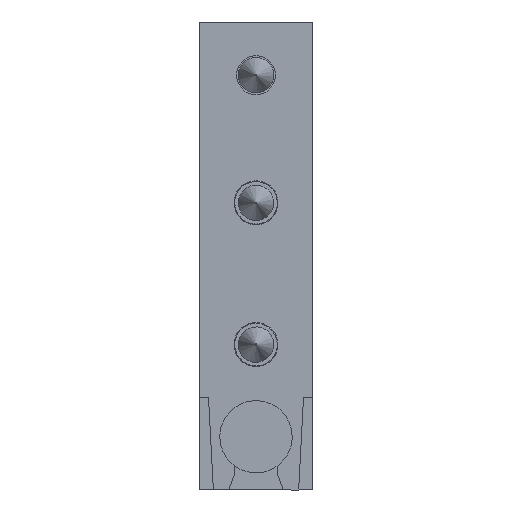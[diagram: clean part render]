
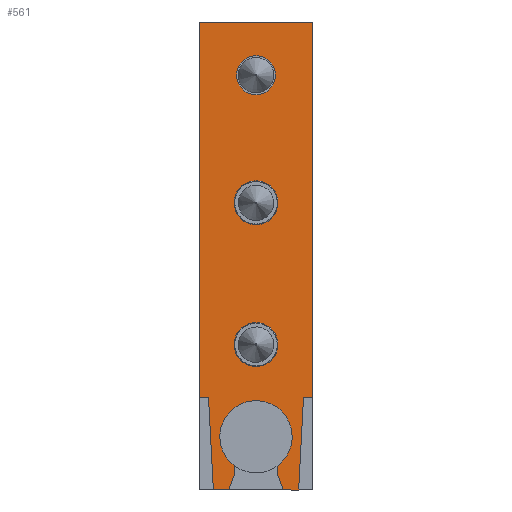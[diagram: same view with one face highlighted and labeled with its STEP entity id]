
A CAD part, left-side view. The second image highlights one B-rep face of the part: STEP entity #561.
In plain terms, the highlighted planar face has unit normal (-1, 0, 0) as drawn and (1, 0, 0) by its records, which use the part's own axes.
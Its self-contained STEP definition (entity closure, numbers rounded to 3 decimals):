
#72=CIRCLE('',#637,3.1);
#73=CIRCLE('',#638,3.1);
#74=CIRCLE('',#639,2.75);
#75=CIRCLE('',#640,3.1);
#104=ORIENTED_EDGE('',*,*,#232,.F.);
#105=ORIENTED_EDGE('',*,*,#233,.F.);
#106=ORIENTED_EDGE('',*,*,#234,.F.);
#107=ORIENTED_EDGE('',*,*,#230,.F.);
#108=ORIENTED_EDGE('',*,*,#235,.T.);
#109=ORIENTED_EDGE('',*,*,#236,.T.);
#110=ORIENTED_EDGE('',*,*,#224,.F.);
#111=ORIENTED_EDGE('',*,*,#237,.F.);
#112=ORIENTED_EDGE('',*,*,#238,.F.);
#113=ORIENTED_EDGE('',*,*,#239,.F.);
#114=ORIENTED_EDGE('',*,*,#240,.F.);
#115=ORIENTED_EDGE('',*,*,#241,.F.);
#116=ORIENTED_EDGE('',*,*,#242,.F.);
#117=ORIENTED_EDGE('',*,*,#243,.F.);
#118=ORIENTED_EDGE('',*,*,#244,.F.);
#119=ORIENTED_EDGE('',*,*,#245,.F.);
#120=ORIENTED_EDGE('',*,*,#246,.F.);
#224=EDGE_CURVE('',#288,#289,#338,.T.);
#230=EDGE_CURVE('',#294,#295,#344,.T.);
#232=EDGE_CURVE('',#296,#296,#72,.T.);
#233=EDGE_CURVE('',#297,#297,#73,.T.);
#234=EDGE_CURVE('',#298,#298,#74,.T.);
#235=EDGE_CURVE('',#294,#299,#346,.T.);
#236=EDGE_CURVE('',#299,#289,#347,.T.);
#237=EDGE_CURVE('',#300,#288,#348,.T.);
#238=EDGE_CURVE('',#301,#300,#349,.T.);
#239=EDGE_CURVE('',#302,#301,#75,.T.);
#240=EDGE_CURVE('',#303,#302,#350,.T.);
#241=EDGE_CURVE('',#304,#303,#351,.T.);
#242=EDGE_CURVE('',#305,#304,#352,.T.);
#243=EDGE_CURVE('',#306,#305,#353,.T.);
#244=EDGE_CURVE('',#307,#306,#354,.T.);
#245=EDGE_CURVE('',#308,#307,#355,.T.);
#246=EDGE_CURVE('',#295,#308,#356,.T.);
#288=VERTEX_POINT('',#886);
#289=VERTEX_POINT('',#887);
#294=VERTEX_POINT('',#898);
#295=VERTEX_POINT('',#900);
#296=VERTEX_POINT('',#904);
#297=VERTEX_POINT('',#906);
#298=VERTEX_POINT('',#908);
#299=VERTEX_POINT('',#910);
#300=VERTEX_POINT('',#913);
#301=VERTEX_POINT('',#915);
#302=VERTEX_POINT('',#917);
#303=VERTEX_POINT('',#919);
#304=VERTEX_POINT('',#921);
#305=VERTEX_POINT('',#923);
#306=VERTEX_POINT('',#925);
#307=VERTEX_POINT('',#927);
#308=VERTEX_POINT('',#929);
#338=LINE('',#885,#378);
#344=LINE('',#899,#384);
#346=LINE('',#909,#386);
#347=LINE('',#911,#387);
#348=LINE('',#912,#388);
#349=LINE('',#914,#389);
#350=LINE('',#918,#390);
#351=LINE('',#920,#391);
#352=LINE('',#922,#392);
#353=LINE('',#924,#393);
#354=LINE('',#926,#394);
#355=LINE('',#928,#395);
#356=LINE('',#930,#396);
#378=VECTOR('',#707,1000.);
#384=VECTOR('',#715,1000.);
#386=VECTOR('',#725,1000.);
#387=VECTOR('',#726,1000.);
#388=VECTOR('',#727,1000.);
#389=VECTOR('',#728,1000.);
#390=VECTOR('',#731,1000.);
#391=VECTOR('',#732,1000.);
#392=VECTOR('',#733,1000.);
#393=VECTOR('',#734,1000.);
#394=VECTOR('',#735,1000.);
#395=VECTOR('',#736,1000.);
#396=VECTOR('',#737,1000.);
#420=EDGE_LOOP('',(#104));
#421=EDGE_LOOP('',(#105));
#422=EDGE_LOOP('',(#106));
#423=EDGE_LOOP('',(#107,#108,#109,#110,#111,#112,#113,#114,#115,#116,#117,
#118,#119,#120));
#480=FACE_BOUND('',#420,.T.);
#481=FACE_BOUND('',#421,.T.);
#482=FACE_BOUND('',#422,.T.);
#483=FACE_BOUND('',#423,.T.);
#540=PLANE('',#636);
#561=ADVANCED_FACE('',(#480,#481,#482,#483),#540,.T.);
#636=AXIS2_PLACEMENT_3D('',#902,#717,#718);
#637=AXIS2_PLACEMENT_3D('',#903,#719,#720);
#638=AXIS2_PLACEMENT_3D('',#905,#721,#722);
#639=AXIS2_PLACEMENT_3D('',#907,#723,#724);
#640=AXIS2_PLACEMENT_3D('',#916,#729,#730);
#707=DIRECTION('',(0.,1.,0.));
#715=DIRECTION('',(0.,0.,-1.));
#717=DIRECTION('',(1.,0.,0.));
#718=DIRECTION('',(0.,1.,0.));
#719=DIRECTION('',(1.,0.,0.));
#720=DIRECTION('',(0.,1.,0.));
#721=DIRECTION('',(1.,0.,0.));
#722=DIRECTION('',(0.,1.,0.));
#723=DIRECTION('',(1.,0.,0.));
#724=DIRECTION('',(0.,0.,1.));
#725=DIRECTION('',(0.,-1.,0.));
#726=DIRECTION('',(0.,-0.052,0.999));
#727=DIRECTION('',(0.,0.342,0.94));
#728=DIRECTION('',(0.,0.,1.));
#729=DIRECTION('',(1.,0.,0.));
#730=DIRECTION('',(0.,1.,0.));
#731=DIRECTION('',(0.,0.,-1.));
#732=DIRECTION('',(0.,0.342,-0.94));
#733=DIRECTION('',(0.,1.,0.));
#734=DIRECTION('',(0.,0.052,0.999));
#735=DIRECTION('',(0.,1.,0.));
#736=DIRECTION('',(0.,0.,1.));
#737=DIRECTION('',(0.,-1.,0.));
#885=CARTESIAN_POINT('',(5.,-7.87,26.293));
#886=CARTESIAN_POINT('',(5.,-12.042,26.293));
#887=CARTESIAN_POINT('',(5.,-9.852,26.293));
#898=CARTESIAN_POINT('',(5.,-7.87,13.273));
#899=CARTESIAN_POINT('',(5.,-7.87,26.293));
#900=CARTESIAN_POINT('',(5.,-7.87,-39.707));
#902=CARTESIAN_POINT('',(5.,-23.87,26.293));
#903=CARTESIAN_POINT('',(5.,-15.87,5.793));
#904=CARTESIAN_POINT('',(5.,-12.77,5.793));
#905=CARTESIAN_POINT('',(5.,-15.87,-14.207));
#906=CARTESIAN_POINT('',(5.,-12.77,-14.207));
#907=CARTESIAN_POINT('',(5.,-15.87,-32.207));
#908=CARTESIAN_POINT('',(5.,-15.87,-29.457));
#909=CARTESIAN_POINT('',(5.,-1.922,13.273));
#910=CARTESIAN_POINT('',(5.,-9.17,13.273));
#911=CARTESIAN_POINT('',(5.,-9.996,29.035));
#912=CARTESIAN_POINT('',(5.,-13.425,22.492));
#913=CARTESIAN_POINT('',(5.,-12.77,24.293));
#914=CARTESIAN_POINT('',(5.,-12.77,26.293));
#915=CARTESIAN_POINT('',(5.,-12.77,18.793));
#916=CARTESIAN_POINT('',(5.,-15.87,18.789));
#917=CARTESIAN_POINT('',(5.,-18.97,18.793));
#918=CARTESIAN_POINT('',(5.,-18.97,26.293));
#919=CARTESIAN_POINT('',(5.,-18.97,24.293));
#920=CARTESIAN_POINT('',(5.,-20.186,27.634));
#921=CARTESIAN_POINT('',(5.,-19.698,26.293));
#922=CARTESIAN_POINT('',(5.,-7.87,26.293));
#923=CARTESIAN_POINT('',(5.,-21.888,26.293));
#924=CARTESIAN_POINT('',(5.,-22.57,13.293));
#925=CARTESIAN_POINT('',(5.,-22.57,13.293));
#926=CARTESIAN_POINT('',(5.,-29.818,13.293));
#927=CARTESIAN_POINT('',(5.,-23.87,13.293));
#928=CARTESIAN_POINT('',(5.,-23.87,-39.707));
#929=CARTESIAN_POINT('',(5.,-23.87,-39.707));
#930=CARTESIAN_POINT('',(5.,-23.87,-39.707));
